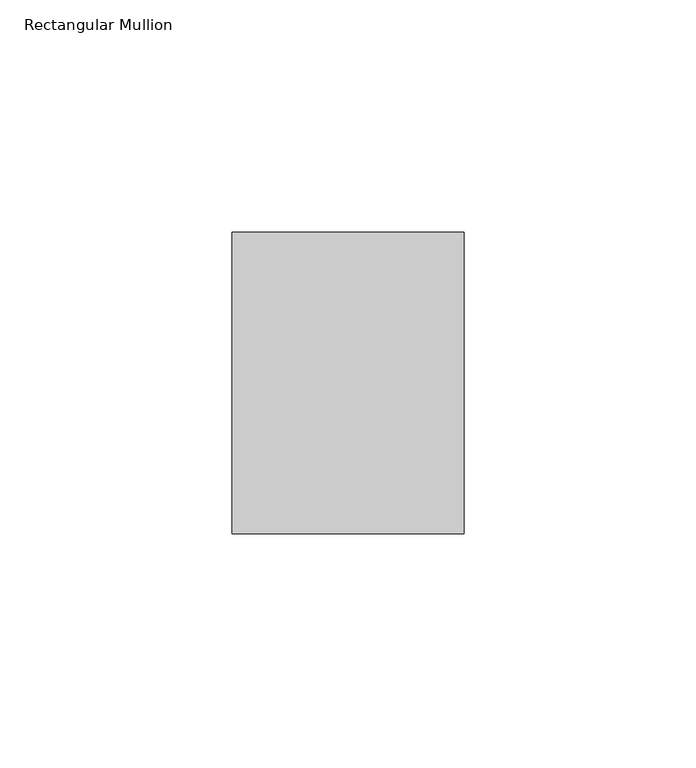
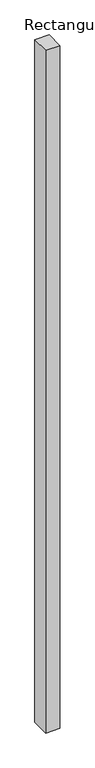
"""IFC4 building model written with IfcOpenShell, lengths in millimetres: member geometry, Rectangular Mullion : MCGRORY - Forster Fuego Light - 60 Min Rated - Side Mullion A."""

import ifcopenshell
import ifcopenshell.guid

model = None  # the IFC model being written
_history = None  # IfcOwnerHistory: only IFC2X3 demands one
_inside = {}  # id of a spatial element -> (the spatial element, [elements in it])
_under = {}  # id of a project, library or spatial element -> (it, [spatial elements below it])
_declared = {}  # id of a project -> (the project, [libraries it declares])
_typed = {}  # id of a type object -> (the type object, [elements of that type])
_made_of = {}  # id of a material, layer set ... -> (it, [elements and type objects made of it])


def new_model(schema):
    """Start an empty IFC model of exactly this schema.

    Asked for "IFC4X3", IfcOpenShell would pick the latest addendum, in which some entities
    have other attributes; the version numbers below select the first issue.
    IFC2X3 requires an IfcOwnerHistory on every rooted entity: one is made here for all.
    """
    global model, _history
    if schema == "IFC4X3":
        model = ifcopenshell.file(schema_version=(4, 3, 0, 0))
    else:
        model = ifcopenshell.file(schema=schema)
    _inside.clear()
    _under.clear()
    _declared.clear()
    _typed.clear()
    _made_of.clear()
    _history = None
    if model.schema == "IFC2X3":
        org = make("IfcOrganization", Name="unknown")
        user = make(
            "IfcPersonAndOrganization",
            ThePerson=make("IfcPerson", FamilyName="unknown"),
            TheOrganization=org,
        )
        app = make(
            "IfcApplication",
            ApplicationDeveloper=org,
            Version="unknown",
            ApplicationFullName="unknown",
            ApplicationIdentifier="unknown",
        )
        _history = make(
            "IfcOwnerHistory",
            OwningUser=user,
            OwningApplication=app,
            ChangeAction="ADDED",
            CreationDate=0,
        )
    return model


def make(cls, **values):
    """One entity of the class cls with the attributes given. An attribute that is None is left unset."""
    return model.create_entity(
        cls, **{name: value for name, value in values.items() if value is not None}
    )


def rooted(cls, **values):
    """An entity with a GlobalId (a new one), such as an element, a storey or a relation."""
    return make(cls, GlobalId=ifcopenshell.guid.new(), OwnerHistory=_history, **values)


def si_unit(unit_type, name, prefix=None):
    """IfcSIUnit, for example si_unit("LENGTHUNIT", "METRE", prefix="MILLI")."""
    return make("IfcSIUnit", UnitType=unit_type, Prefix=prefix, Name=name)


def assignment(units):
    """IfcUnitAssignment: the units of a project."""
    return None if units is None else make("IfcUnitAssignment", Units=units)


def point(xyz):
    """IfcCartesianPoint."""
    return None if xyz is None else make("IfcCartesianPoint", Coordinates=xyz)


def direction(xyz):
    """IfcDirection."""
    return None if xyz is None else make("IfcDirection", DirectionRatios=xyz)


def frame(location, z_axis=None, x_axis=None):
    """IfcAxis2Placement3D, a coordinate frame: its origin and axes. An axis left out is left unset."""
    return make(
        "IfcAxis2Placement3D",
        Location=point(location),
        Axis=direction(z_axis),
        RefDirection=direction(x_axis),
    )


def origin():
    """The frame at (0, 0, 0) with its axes left unset."""
    return frame((0.0, 0.0, 0.0))


def place(relative_to, where):
    """IfcLocalPlacement: puts the frame where relative to a parent placement (None: the world)."""
    return make(
        "IfcLocalPlacement", PlacementRelTo=relative_to, RelativePlacement=where
    )


def context(
    kind, dimensions, precision=None, world=None, true_north=None, identifier=None
):
    """IfcGeometricRepresentationContext, for example the 3D "Model" context."""
    return make(
        "IfcGeometricRepresentationContext",
        ContextIdentifier=identifier,
        ContextType=kind,
        CoordinateSpaceDimension=dimensions,
        Precision=precision,
        WorldCoordinateSystem=world,
        TrueNorth=true_north,
    )


def project(units=None, contexts=None):
    """IfcProject with its units and contexts."""
    return rooted(
        "IfcProject",
        Name="project",
        RepresentationContexts=contexts,
        UnitsInContext=assignment(units),
    )


def spatial(cls, under=None, at=None, **own):
    """A site, building, storey or space (cls), placed at a placement, below another one or the project."""
    s = rooted(cls, ObjectPlacement=at, **own)
    if under is not None:
        _under.setdefault(under.id(), (under, []))[1].append(s)
    return s


def polyline(points):
    """IfcPolyline through the points."""
    return make("IfcPolyline", Points=[point(p) for p in points])


def outline(outer, holes=None, kind="AREA"):
    """IfcArbitraryClosedProfileDef: a profile drawn as a closed curve; with holes, ...WithVoids."""
    if holes is None:
        return make("IfcArbitraryClosedProfileDef", ProfileType=kind, OuterCurve=outer)
    return make(
        "IfcArbitraryProfileDefWithVoids",
        ProfileType=kind,
        OuterCurve=outer,
        InnerCurves=holes,
    )


def extrude(swept, where, along, depth):
    """IfcExtrudedAreaSolid: the profile swept, set in the frame where, extruded along a direction by depth."""
    return make(
        "IfcExtrudedAreaSolid",
        SweptArea=swept,
        Position=where,
        ExtrudedDirection=direction(along),
        Depth=depth,
    )


def shape(context_of_items, identifier, shape_type, items):
    """IfcShapeRepresentation: the items that make up one representation, for example the "Body"."""
    return make(
        "IfcShapeRepresentation",
        ContextOfItems=context_of_items,
        RepresentationIdentifier=identifier,
        RepresentationType=shape_type,
        Items=items,
    )


def source(mapping_origin, context_of_items, identifier, shape_type, items):
    """IfcRepresentationMap: a shape defined once, which mapped items show again and again."""
    return make(
        "IfcRepresentationMap",
        MappingOrigin=mapping_origin,
        MappedRepresentation=shape(context_of_items, identifier, shape_type, items),
    )


def transform(
    local_origin,
    x_axis=None,
    y_axis=None,
    z_axis=None,
    scale=None,
    scale2=None,
    scale3=None,
    uniform=True,
):
    """IfcCartesianTransformationOperator3D, or its non-uniform kind. x_axis, y_axis, z_axis: its Axis1, 2, 3."""
    if uniform:
        return make(
            "IfcCartesianTransformationOperator3D",
            Axis1=direction(x_axis),
            Axis2=direction(y_axis),
            LocalOrigin=point(local_origin),
            Scale=scale,
            Axis3=direction(z_axis),
        )
    return make(
        "IfcCartesianTransformationOperator3DnonUniform",
        Axis1=direction(x_axis),
        Axis2=direction(y_axis),
        LocalOrigin=point(local_origin),
        Scale=scale,
        Axis3=direction(z_axis),
        Scale2=scale2,
        Scale3=scale3,
    )


def mapped(mapping_source, mapping_target):
    """IfcMappedItem: shows the shape of a source again, moved by a transform."""
    return make(
        "IfcMappedItem", MappingSource=mapping_source, MappingTarget=mapping_target
    )


def made_of(thing, what):
    """Note that an element or type object is made of a material, layer set ...; save() writes the relation."""
    if what is not None:
        _made_of.setdefault(what.id(), (what, []))[1].append(thing)
    return thing


def element(
    cls,
    number,
    at=None,
    inside=None,
    cuts=None,
    type_object=None,
    material=None,
    context=None,
    identifier="Body",
    shape_type=None,
    held_by="IfcProductDefinitionShape",
    body=None,
    shapes=None,
    **own,
):
    """One element of the class cls, such as IfcWall. Its Tag is "e" and its number.

    at: its placement. inside: the storey or other place that contains it. cuts: it is an
    opening in that element (IfcRelVoidsElement). A single representation is given by context,
    identifier, shape_type and body (its items); several are given by shapes. held_by: the class
    of the entity that holds the representations. save() writes the other relations.
    """
    e = rooted(cls, Tag="e%d" % number, ObjectPlacement=at, **own)
    if body is not None:
        shapes = [shape(context, identifier, shape_type, body)]
    if shapes is not None:
        e.Representation = make(held_by, Representations=shapes)
    if inside is not None:
        _inside.setdefault(inside.id(), (inside, []))[1].append(e)
    if cuts is not None:
        rooted(
            "IfcRelVoidsElement", RelatingBuildingElement=cuts, RelatedOpeningElement=e
        )
    if type_object is not None:
        _typed.setdefault(type_object.id(), (type_object, []))[1].append(e)
    return made_of(e, material)


def aggregate(whole, parts):
    """IfcRelAggregates: a whole, such as a stair, and the parts it consists of."""
    return rooted("IfcRelAggregates", RelatingObject=whole, RelatedObjects=parts)


def save(model, path):
    """Write the relations noted so far, then the file.

    IfcRelAggregates (storeys below a building ...), IfcRelContainedInSpatialStructure (elements
    in a storey), IfcRelDefinesByType, IfcRelAssociatesMaterial and IfcRelDeclares: one each for
    every whole, place, type object, material and project.
    """
    for whole, parts in _under.values():
        aggregate(whole, parts)
    for where, things in _inside.values():
        rooted(
            "IfcRelContainedInSpatialStructure",
            RelatedElements=things,
            RelatingStructure=where,
        )
    for kind, things in _typed.values():
        rooted("IfcRelDefinesByType", RelatedObjects=things, RelatingType=kind)
    for what, things in _made_of.values():
        rooted("IfcRelAssociatesMaterial", RelatedObjects=things, RelatingMaterial=what)
    for by, libraries in _declared.values():
        rooted("IfcRelDeclares", RelatingContext=by, RelatedDefinitions=libraries)
    model.write(path)


def rectangular_mullion_79587ba0(model_context):
    return source(origin(), model_context, "Body", "SweptSolid", [
        extrude(outline(polyline([(-49.9781277, -32.485783), (-49.9781277, 32.485783), (0.0, 32.485783), (0.0, -32.485783), (-49.9781277, -32.485783)])), frame((0.0, 0.0, -2540.0), z_axis=(0.0, 0.0, 1.0), x_axis=(1.0, 0.0, 0.0)), (0.0, 0.0, 1.0), 2540.0),
    ])


if __name__ == "__main__":
    model = new_model("IFC4")
    model_context = context("Model", 3, world=origin())
    ifc_project = project(units=[si_unit("LENGTHUNIT", "METRE", prefix="MILLI")], contexts=[model_context])
    site = spatial("IfcSite", under=ifc_project)
    building = spatial("IfcBuilding", under=site)
    placement = place(None, origin())
    rectangular_mullion_shape = rectangular_mullion_79587ba0(model_context)
    element("IfcMember", 1, ObjectType="Rectangular Mullion : MCGRORY - Forster Fuego Light - 60 Min Rated - Side Mullion A", at=placement, inside=building, context=model_context, shape_type="MappedRepresentation", body=[
        mapped(rectangular_mullion_shape, transform((0.0, 0.0, 0.0), x_axis=(1.0, 0.0, 0.0), y_axis=(0.0, 1.0, 0.0), z_axis=(0.0, 0.0, 1.0))),
    ])
    save(model, "model.ifc")
